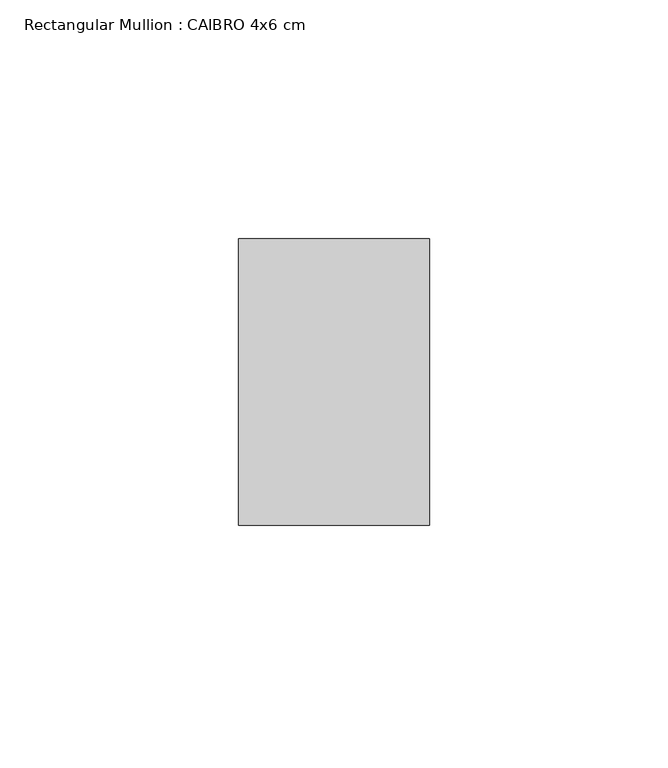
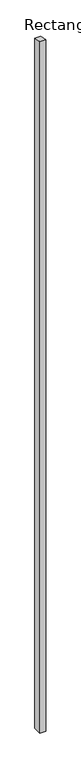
"""IFC4 building model written with IfcOpenShell, lengths in millimetres: member geometry, Rectangular Mullion : CAIBRO 4x6 cm."""

from ifc_helpers import new_model, si_unit, frame, origin, place, context, project, spatial, polyline, outline, extrude, source, transform, mapped, element, save


def rectangular_mullion_caibro_4x6_cm_ef3f1c05(model_context):
    return source(origin(), model_context, "Body", "SweptSolid", [
        extrude(outline(polyline([(0.0, 0.0), (60.0, -9.0), (60.0, -5015.4896072), (0.0, -5015.4896072), (0.0, 0.0)])), frame((-20.0, 0.0, 0.0), z_axis=(1.0, 0.0, 0.0), x_axis=(0.0, 1.0, 0.0)), (0.0, 0.0, 1.0), 40.0),
    ])


if __name__ == "__main__":
    model = new_model("IFC4")
    model_context = context("Model", 3, world=origin())
    ifc_project = project(units=[si_unit("LENGTHUNIT", "METRE", prefix="MILLI")], contexts=[model_context])
    site = spatial("IfcSite", under=ifc_project)
    building = spatial("IfcBuilding", under=site)
    placement = place(None, origin())
    rectangular_mullion_caibro_4x6_cm_shape = rectangular_mullion_caibro_4x6_cm_ef3f1c05(model_context)
    element("IfcMember", 1, ObjectType="Rectangular Mullion : CAIBRO 4x6 cm", at=placement, inside=building, context=model_context, shape_type="MappedRepresentation", body=[
        mapped(rectangular_mullion_caibro_4x6_cm_shape, transform((0.0, 0.0, 0.0), x_axis=(1.0, 0.0, 0.0), y_axis=(0.0, 1.0, 0.0), z_axis=(0.0, 0.0, 1.0))),
    ])
    save(model, "model.ifc")
